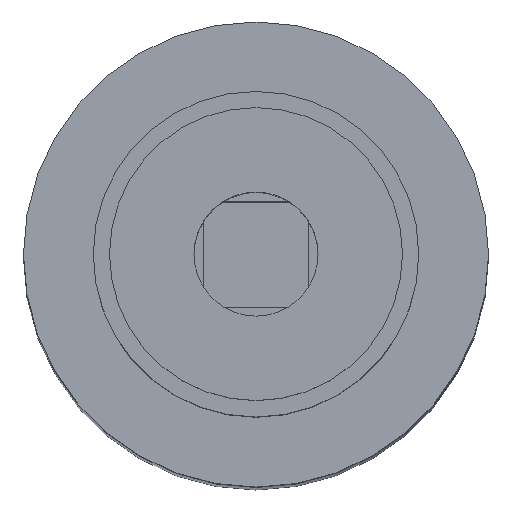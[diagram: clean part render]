
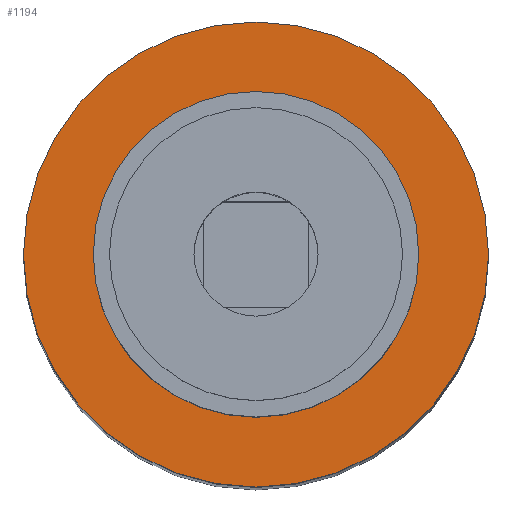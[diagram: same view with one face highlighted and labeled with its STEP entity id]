
A CAD part, top view. The second image highlights one B-rep face of the part: STEP entity #1194.
In plain terms, the highlighted planar face has unit normal (0, 0, 1).
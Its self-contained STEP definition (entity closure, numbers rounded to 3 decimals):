
#46 = ORIENTED_EDGE ( 'NONE', *, *, #319, .F. ) ;
#60 = ORIENTED_EDGE ( 'NONE', *, *, #250, .F. ) ;
#61 = ORIENTED_EDGE ( 'NONE', *, *, #63, .F. ) ;
#62 = EDGE_LOOP ( 'NONE', ( #60, #61 ) ) ;
#63 = EDGE_CURVE ( 'NONE', #251, #224, #490, .T. ) ;
#68 = EDGE_LOOP ( 'NONE', ( #69, #46 ) ) ;
#69 = ORIENTED_EDGE ( 'NONE', *, *, #70, .F. ) ;
#70 = EDGE_CURVE ( 'NONE', #312, #246, #480, .T. ) ;
#224 = VERTEX_POINT ( 'NONE', #764 ) ;
#246 = VERTEX_POINT ( 'NONE', #776 ) ;
#250 = EDGE_CURVE ( 'NONE', #224, #251, #834, .T. ) ;
#251 = VERTEX_POINT ( 'NONE', #829 ) ;
#312 = VERTEX_POINT ( 'NONE', #964 ) ;
#319 = EDGE_CURVE ( 'NONE', #246, #312, #958, .T. ) ;
#476 = DIRECTION ( 'NONE',  ( 1., 0., 0. ) ) ;
#477 = DIRECTION ( 'NONE',  ( 0., 0., -1. ) ) ;
#478 = CARTESIAN_POINT ( 'NONE',  ( 0., 0., 115.7 ) ) ;
#479 = AXIS2_PLACEMENT_3D ( 'NONE', #478, #477, #476 ) ;
#480 = CIRCLE ( 'NONE', #479, 15. ) ;
#487 = DIRECTION ( 'NONE',  ( 1., 0., 0. ) ) ;
#488 = DIRECTION ( 'NONE',  ( 0., 0., 1. ) ) ;
#489 = AXIS2_PLACEMENT_3D ( 'NONE', #496, #488, #487 ) ;
#490 = CIRCLE ( 'NONE', #489, 10.5 ) ;
#496 = CARTESIAN_POINT ( 'NONE',  ( 0., 0., 115.7 ) ) ;
#764 = CARTESIAN_POINT ( 'NONE',  ( 10.5, 0., 115.7 ) ) ;
#776 = CARTESIAN_POINT ( 'NONE',  ( -15., 0., 115.7 ) ) ;
#829 = CARTESIAN_POINT ( 'NONE',  ( -10.5, 0., 115.7 ) ) ;
#830 = DIRECTION ( 'NONE',  ( 1., 0., 0. ) ) ;
#831 = DIRECTION ( 'NONE',  ( 0., 0., 1. ) ) ;
#832 = CARTESIAN_POINT ( 'NONE',  ( 0., 0., 115.7 ) ) ;
#833 = AXIS2_PLACEMENT_3D ( 'NONE', #832, #831, #830 ) ;
#834 = CIRCLE ( 'NONE', #833, 10.5 ) ;
#954 = DIRECTION ( 'NONE',  ( 1., 0., 0. ) ) ;
#955 = DIRECTION ( 'NONE',  ( 0., 0., -1. ) ) ;
#956 = CARTESIAN_POINT ( 'NONE',  ( 0., 0., 115.7 ) ) ;
#957 = AXIS2_PLACEMENT_3D ( 'NONE', #956, #955, #954 ) ;
#958 = CIRCLE ( 'NONE', #957, 15. ) ;
#964 = CARTESIAN_POINT ( 'NONE',  ( 15., 0., 115.7 ) ) ;
#1061 = AXIS2_PLACEMENT_3D ( 'NONE', #1062, #1112, #1111 ) ;
#1062 = CARTESIAN_POINT ( 'NONE',  ( 0., 0., 115.7 ) ) ;
#1063 = PLANE ( 'NONE',  #1061 ) ;
#1064 = FACE_OUTER_BOUND ( 'NONE', #68, .T. ) ;
#1068 = FACE_BOUND ( 'NONE', #62, .T. ) ;
#1111 = DIRECTION ( 'NONE',  ( -1., 0., 0. ) ) ;
#1112 = DIRECTION ( 'NONE',  ( 0., 0., -1. ) ) ;
#1194 = ADVANCED_FACE ( 'NONE', ( #1068, #1064 ), #1063, .F. ) ;
